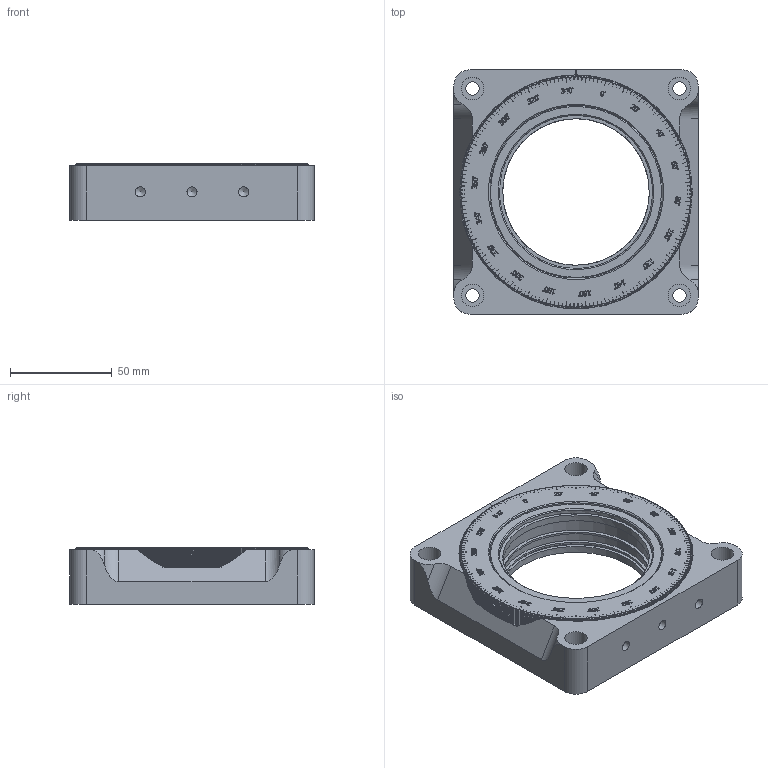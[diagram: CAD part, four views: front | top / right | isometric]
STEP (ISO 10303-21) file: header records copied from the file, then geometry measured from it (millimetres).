
FILE_DESCRIPTION(/* description */ (''),/* implementation_level */ '2;1');
FILE_NAME(/* name */ 'U:\KONSTRUKTORIAI\DOKUMENTACIJA\5\5PHH50E-75\step\5PHH50E-75.stp',/* time_stamp */ '2017-03-01T07:57:25+02:00',/* author */ ('dsgn33'),/* organization */ (''),/* preprocessor_version */ 'ST-DEVELOPER v15.2',/* originating_system */ 'Autodesk Inventor 2014',/* authorisation */ '');
FILE_SCHEMA (('AUTOMOTIVE_DESIGN { 1 0 10303 214 3 1 1 }'));
Products named in the file (2): Part2; Assembly1
Bounding box: 120 x 120 x 27.9 mm (x, y, z)
Volume: 244672.7 mm3; surface area: 66925.2 mm2
Topology: 2 solids, 11 shells, 3909 faces, 11207 edges, 7456 vertices
Faces by surface type: plane 2134, bspline 671, cylinder 574, cone 522, torus 8
Full cylindrical faces by diameter (mm): 2 x2, 2.013 x6, 4.978 x3, 6.6 x4, 11 x4, 72 x4, 75.3 x5, 83 x1, 85 x6, 88 x4, 107 x4, 110 x5
Entity records: 131135 total; most frequent: CARTESIAN_POINT 35016, ORIENTED_EDGE 22200, DIRECTION 17185, EDGE_CURVE 11100, VERTEX_POINT 7423, LINE 6739, VECTOR 6739, AXIS2_PLACEMENT_3D 5223
